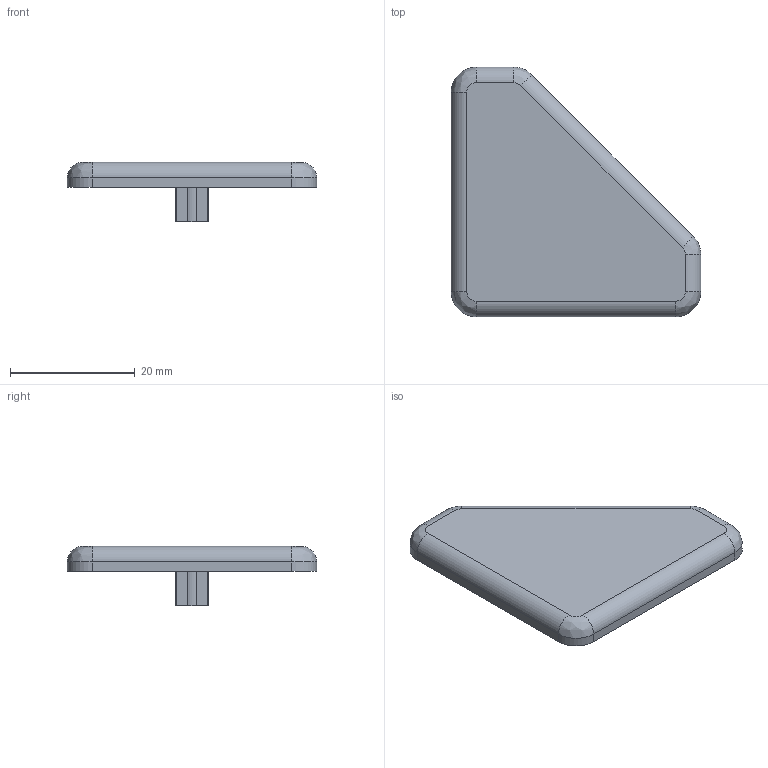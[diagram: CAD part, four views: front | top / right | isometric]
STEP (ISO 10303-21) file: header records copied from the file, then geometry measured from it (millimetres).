
FILE_DESCRIPTION (( 'STEP AP203' ), '1' );
FILE_NAME ('421042_Abdeckkappe 8 40x40 - 45°.step', '2022-06-24T07:27:25', ( '' ), ( '' ), 'SwSTEP 2.0', 'SolidWorks 2021', '' );
FILE_SCHEMA (( 'CONFIG_CONTROL_DESIGN' ));
Length unit declared in the file: millimetre
Products named in the file (1): 421042_Abdeckkappe 8 40x40 - 45°
Bounding box: 40 x 40 x 9.5 mm (x, y, z)
Volume: 4191.9 mm3; surface area: 2963.2 mm2
Topology: 1 solids, 1 shells, 47 faces, 119 edges, 76 vertices
Faces by surface type: plane 22, cylinder 20, bspline 5
Entity records: 1548 total; most frequent: CARTESIAN_POINT 335, DIRECTION 240, ORIENTED_EDGE 238, EDGE_CURVE 119, AXIS2_PLACEMENT_3D 83, VERTEX_POINT 76, VECTOR 74, LINE 74
